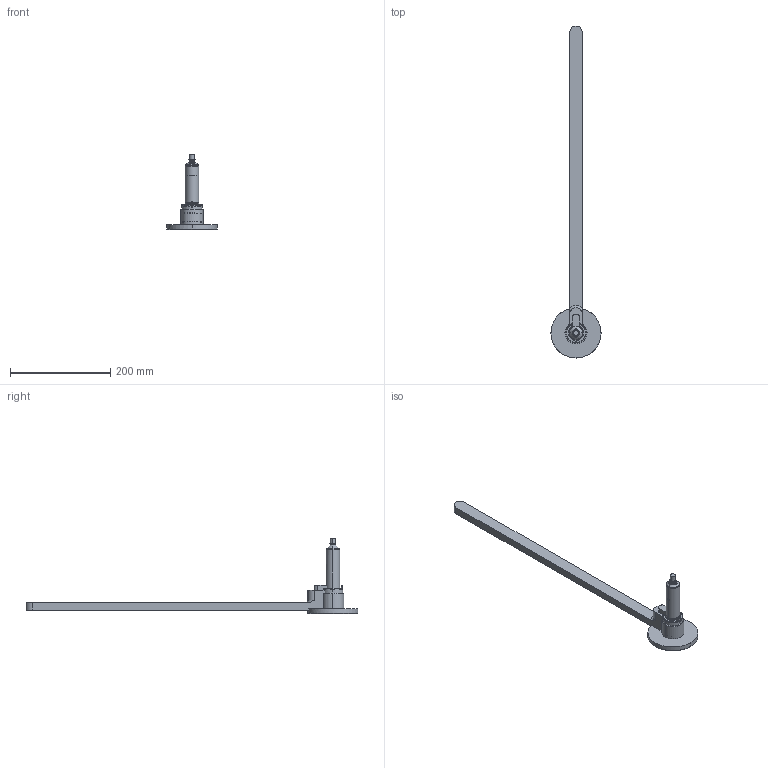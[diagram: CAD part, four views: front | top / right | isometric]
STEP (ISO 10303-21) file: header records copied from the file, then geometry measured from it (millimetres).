
FILE_DESCRIPTION (( 'STEP AP214' ), '1' );
FILE_NAME ('09S-03-090-##P.STEP', '2023-01-04T08:59:21', ( '' ), ( '' ), 'SwSTEP 2.0', 'SolidWorks 2018', '' );
FILE_SCHEMA (( 'AUTOMOTIVE_DESIGN' ));
Length unit declared in the file: millimetre
Products named in the file (3): nozzle_09S-03-090-##P; cutout_09S-03-090-##P; 09S-03-090-##P
Assembly tree (2 placements, depth 2):
  09S-03-090-##P
    nozzle_09S-03-090-##P
    cutout_09S-03-090-##P
Bounding box: 100 x 662.5 x 150 mm (x, y, z)
Volume: 415239.3 mm3; surface area: 114985.1 mm2
Topology: 1 solids, 6 shells, 529 faces, 1409 edges, 882 vertices
Faces by surface type: cylinder 226, plane 142, cone 97, torus 54, bspline 5, sphere 5
Entity records: 21289 total; most frequent: CARTESIAN_POINT 7788, DIRECTION 2912, ORIENTED_EDGE 2794, EDGE_CURVE 1398, AXIS2_PLACEMENT_3D 1182, VERTEX_POINT 882, CIRCLE 652, EDGE_LOOP 557
